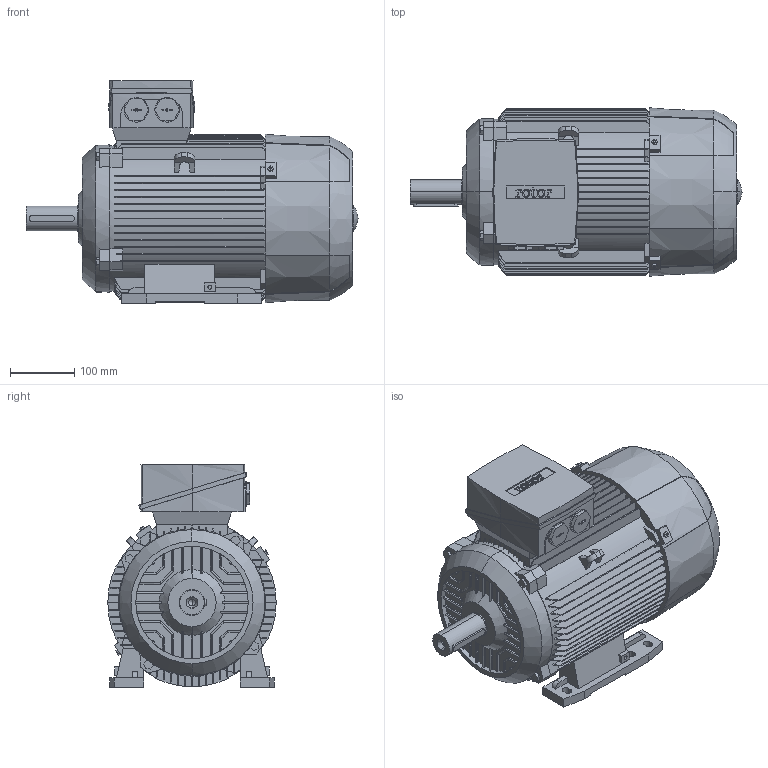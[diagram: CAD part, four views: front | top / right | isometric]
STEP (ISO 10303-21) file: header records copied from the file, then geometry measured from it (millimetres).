
FILE_DESCRIPTION (( 'STEP AP214' ), '1' );
FILE_NAME ('6RN112M04E42 IM1041.STEP', '2017-01-12T08:30:37', ( 'rbc_ict' ), ( 'Microsoft' ), 'SwSTEP 2.0', 'SolidWorks 2015', '' );
FILE_SCHEMA (( 'AUTOMOTIVE_DESIGN' ));
Length unit declared in the file: millimetre
Products named in the file (1): 6RN112M04E42 IM1041
Bounding box: 516.5 x 262 x 346.5 mm (x, y, z)
Volume: 21130376.8 mm3; surface area: 933440.3 mm2
Topology: 1 solids, 1 shells, 1109 faces, 3172 edges, 2094 vertices
Faces by surface type: plane 686, cylinder 231, bspline 168, cone 24
Entity records: 53398 total; most frequent: CARTESIAN_POINT 15084, ORIENTED_EDGE 6336, DIRECTION 4708, EDGE_CURVE 3168, VERTEX_POINT 2094, VECTOR 1872, LINE 1872, AXIS2_PLACEMENT_3D 1418
